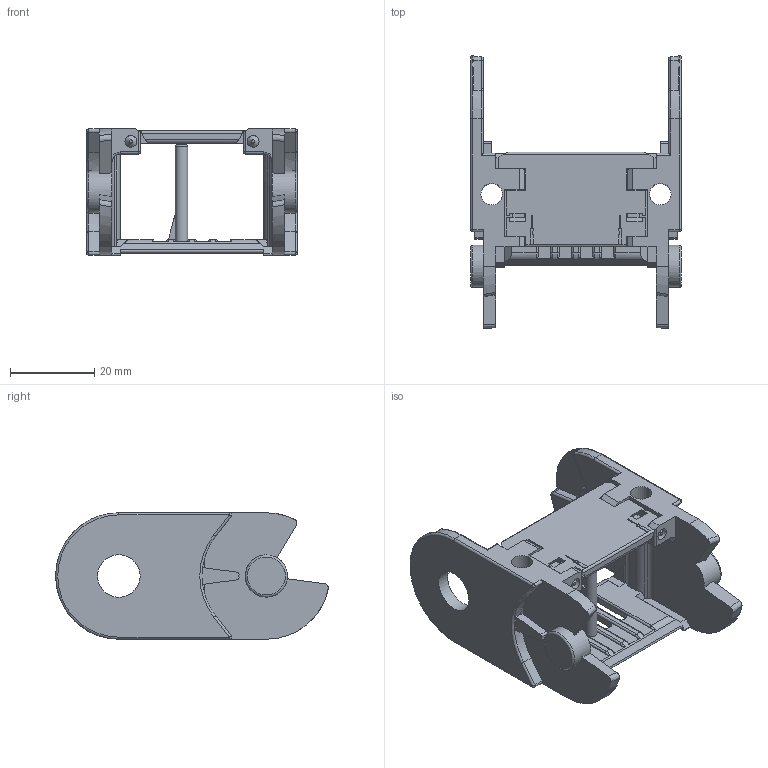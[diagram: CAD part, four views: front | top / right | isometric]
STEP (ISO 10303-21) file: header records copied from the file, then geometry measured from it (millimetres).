
FILE_DESCRIPTION((''),'2;1');
FILE_NAME('C:\Uebbing\PARAMETERKETTEN\KOLIBRI\Kol_30_050_0\Kol_30_050_0_Glied.stp','2011-11-02T11:36:56',('Uebbing'),(''),'Autodesk Inventor 10','Autodesk Inventor 10','');
FILE_SCHEMA(('AUTOMOTIVE_DESIGN { 1 0 10303 214 1 1 1 1 }'));
Length unit declared in the file: millimetre
Products named in the file (4): Kol_30_050_0_Glied; Kol 30_050_0 Lasche; Kol 30_050_0 Klappsteg; PZ 30 Stecksteg
Assembly tree (3 placements, depth 2):
  Kol_30_050_0_Glied
    Kol 30_050_0 Lasche
    Kol 30_050_0 Klappsteg
    PZ 30 Stecksteg
Bounding box: 50 x 64.71 x 30 mm (x, y, z)
Volume: 15576.5 mm3; surface area: 15087.6 mm2
Topology: 3 solids, 3 shells, 957 faces, 2615 edges, 1713 vertices
Faces by surface type: plane 492, bspline 207, cylinder 199, torus 45, cone 8, sphere 6
Full cylindrical faces by diameter (mm): 1.166 x1, 2.048 x1, 2.8 x8, 5.1 x2, 10 x2, 10.1 x2
Entity records: 32898 total; most frequent: CARTESIAN_POINT 9672, ORIENTED_EDGE 5146, DIRECTION 4216, EDGE_CURVE 2573, VERTEX_POINT 1699, VECTOR 1612, LINE 1612, AXIS2_PLACEMENT_3D 1302
